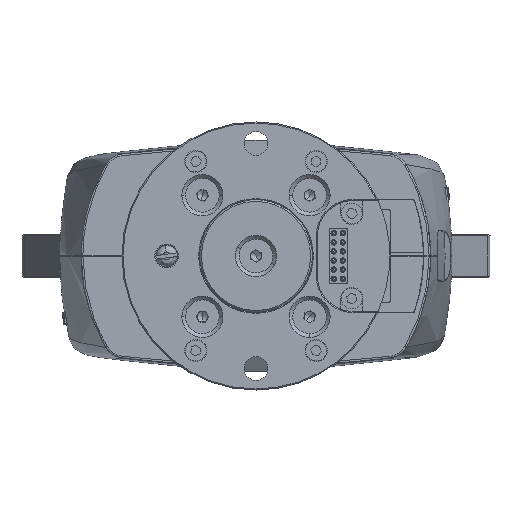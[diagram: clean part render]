
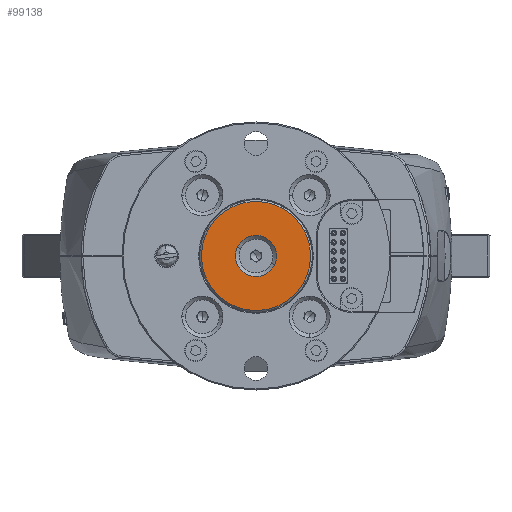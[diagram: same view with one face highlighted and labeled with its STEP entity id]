
A CAD part, front view. The second image highlights one B-rep face of the part: STEP entity #99138.
In plain terms, the highlighted planar face has unit normal (0, -1, 0).
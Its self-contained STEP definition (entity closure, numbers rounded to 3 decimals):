
#6050 = VERTEX_POINT ( 'NONE', #195330 ) ;
#9663 = CIRCLE ( 'NONE', #193168, 15.25 ) ;
#10364 = CARTESIAN_POINT ( 'NONE',  ( 5.214, -46.498, -2.424 ) ) ;
#17899 = DIRECTION ( 'NONE',  ( 0.907, 0., -0.422 ) ) ;
#22755 = DIRECTION ( 'NONE',  ( 0., -1., 0. ) ) ;
#26093 = FACE_OUTER_BOUND ( 'NONE', #103359, .T. ) ;
#29075 = ORIENTED_EDGE ( 'NONE', *, *, #96254, .T. ) ;
#31889 = CARTESIAN_POINT ( 'NONE',  ( 0., -46.498, 0. ) ) ;
#35879 = CARTESIAN_POINT ( 'NONE',  ( 6.429, -46.498, 13.829 ) ) ;
#39748 = CARTESIAN_POINT ( 'NONE',  ( 0., -46.498, 0. ) ) ;
#44073 = VERTEX_POINT ( 'NONE', #10364 ) ;
#59399 = EDGE_LOOP ( 'NONE', ( #216397, #180990 ) ) ;
#60355 = EDGE_CURVE ( 'NONE', #6050, #186204, #9663, .T. ) ;
#72167 = DIRECTION ( 'NONE',  ( 0.907, 0., -0.422 ) ) ;
#74396 = CIRCLE ( 'NONE', #92368, 15.25 ) ;
#87931 = CARTESIAN_POINT ( 'NONE',  ( 0., -46.498, 0. ) ) ;
#92368 = AXIS2_PLACEMENT_3D ( 'NONE', #31889, #100684, #169393 ) ;
#93448 = AXIS2_PLACEMENT_3D ( 'NONE', #39748, #22755, #198529 ) ;
#95926 = CARTESIAN_POINT ( 'NONE',  ( 0., -46.498, 0. ) ) ;
#96254 = EDGE_CURVE ( 'NONE', #186204, #6050, #74396, .T. ) ;
#99138 = ADVANCED_FACE ( 'NONE', ( #180536, #26093 ), #128683, .T. ) ;
#100684 = DIRECTION ( 'NONE',  ( 0., -1., 0. ) ) ;
#103359 = EDGE_LOOP ( 'NONE', ( #29075, #140917 ) ) ;
#105822 = VERTEX_POINT ( 'NONE', #210190 ) ;
#113235 = EDGE_CURVE ( 'NONE', #44073, #105822, #202999, .T. ) ;
#121562 = DIRECTION ( 'NONE',  ( 0., 1., 0. ) ) ;
#128303 = DIRECTION ( 'NONE',  ( 0.422, 0., 0.907 ) ) ;
#128683 = PLANE ( 'NONE',  #93448 ) ;
#140917 = ORIENTED_EDGE ( 'NONE', *, *, #60355, .T. ) ;
#144082 = EDGE_CURVE ( 'NONE', #105822, #44073, #175889, .T. ) ;
#166593 = AXIS2_PLACEMENT_3D ( 'NONE', #87931, #121562, #72167 ) ;
#169393 = DIRECTION ( 'NONE',  ( 0.422, 0., 0.907 ) ) ;
#175889 = CIRCLE ( 'NONE', #204724, 5.75 ) ;
#180536 = FACE_BOUND ( 'NONE', #59399, .T. ) ;
#180990 = ORIENTED_EDGE ( 'NONE', *, *, #144082, .T. ) ;
#186204 = VERTEX_POINT ( 'NONE', #35879 ) ;
#193168 = AXIS2_PLACEMENT_3D ( 'NONE', #211817, #195920, #128303 ) ;
#195330 = CARTESIAN_POINT ( 'NONE',  ( -6.429, -46.498, -13.829 ) ) ;
#195920 = DIRECTION ( 'NONE',  ( 0., -1., 0. ) ) ;
#198529 = DIRECTION ( 'NONE',  ( 0.907, 0., -0.422 ) ) ;
#202999 = CIRCLE ( 'NONE', #166593, 5.75 ) ;
#204724 = AXIS2_PLACEMENT_3D ( 'NONE', #95926, #205050, #17899 ) ;
#205050 = DIRECTION ( 'NONE',  ( 0., 1., 0. ) ) ;
#210190 = CARTESIAN_POINT ( 'NONE',  ( -5.214, -46.498, 2.424 ) ) ;
#211817 = CARTESIAN_POINT ( 'NONE',  ( 0., -46.498, 0. ) ) ;
#216397 = ORIENTED_EDGE ( 'NONE', *, *, #113235, .T. ) ;
